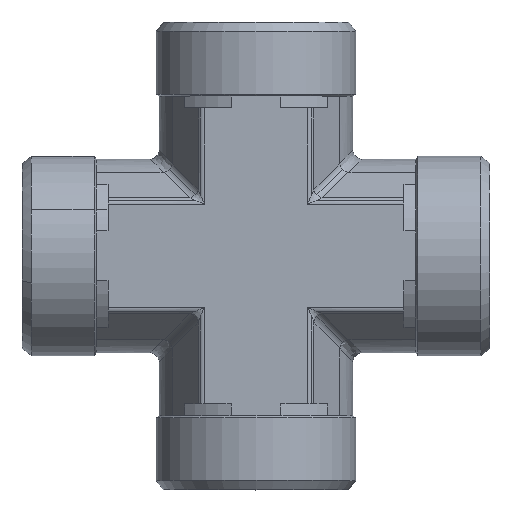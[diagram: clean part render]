
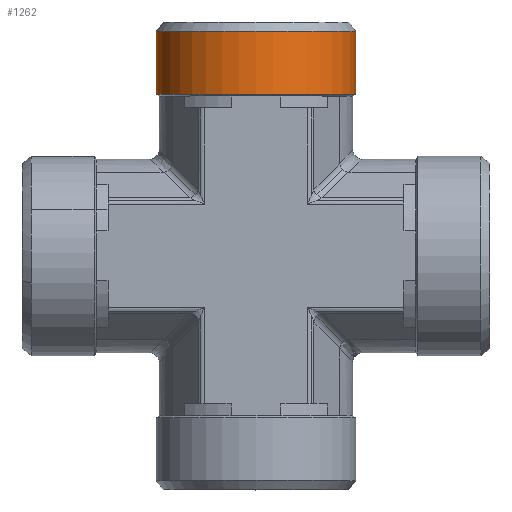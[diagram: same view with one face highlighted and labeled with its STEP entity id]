
A CAD part, top view. The second image highlights one B-rep face of the part: STEP entity #1262.
In plain terms, the highlighted cylindrical face has radius 20.91 mm (diameter 41.82 mm), a partial arc.
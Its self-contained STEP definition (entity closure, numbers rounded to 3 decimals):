
#1059=CARTESIAN_POINT('',(-51.563,0.,-20.91));
#1060=VERTEX_POINT('',#1059);
#1076=CARTESIAN_POINT('',(-51.563,0.,20.91));
#1077=VERTEX_POINT('',#1076);
#1099=CARTESIAN_POINT('',(-38.381,0.,-20.91));
#1100=VERTEX_POINT('',#1099);
#1133=CARTESIAN_POINT('',(-38.381,0.,20.91));
#1134=VERTEX_POINT('',#1133);
#1141=CARTESIAN_POINT('',(-38.381,0.,0.));
#1142=DIRECTION('',(1.0,0.0,0.0));
#1143=DIRECTION('',(0.0,0.0,-1.0));
#1144=AXIS2_PLACEMENT_3D('',#1141,#1142,#1143);
#1145=CIRCLE('',#1144,20.91);
#1146=EDGE_CURVE('',#1134,#1100,#1145,.T.);
#1235=CARTESIAN_POINT('',(-55.5,0.,0.));
#1236=DIRECTION('',(1.0,0.,0.));
#1237=DIRECTION('',(0.0,0.0,-1.0));
#1238=AXIS2_PLACEMENT_3D('',#1235,#1236,#1237);
#1239=CYLINDRICAL_SURFACE('',#1238,20.91);
#1240=CARTESIAN_POINT('',(-38.381,0.,-20.91));
#1241=DIRECTION('',(-1.0,0.0,0.0));
#1242=VECTOR('',#1241,13.181);
#1243=LINE('',#1240,#1242);
#1244=EDGE_CURVE('',#1100,#1060,#1243,.T.);
#1245=ORIENTED_EDGE('',*,*,#1244,.F.);
#1246=ORIENTED_EDGE('',*,*,#1146,.F.);
#1247=CARTESIAN_POINT('',(-51.563,0.,20.91));
#1248=DIRECTION('',(1.0,0.0,0.0));
#1249=VECTOR('',#1248,13.181);
#1250=LINE('',#1247,#1249);
#1251=EDGE_CURVE('',#1077,#1134,#1250,.T.);
#1252=ORIENTED_EDGE('',*,*,#1251,.F.);
#1253=CARTESIAN_POINT('',(-51.563,0.,0.));
#1254=DIRECTION('',(-1.0,0.0,0.0));
#1255=DIRECTION('',(0.0,0.0,-1.0));
#1256=AXIS2_PLACEMENT_3D('',#1253,#1254,#1255);
#1257=CIRCLE('',#1256,20.91);
#1258=EDGE_CURVE('',#1060,#1077,#1257,.T.);
#1259=ORIENTED_EDGE('',*,*,#1258,.F.);
#1260=EDGE_LOOP('',(#1245,#1246,#1252,#1259));
#1261=FACE_OUTER_BOUND('',#1260,.T.);
#1262=ADVANCED_FACE('',(#1261),#1239,.T.);
